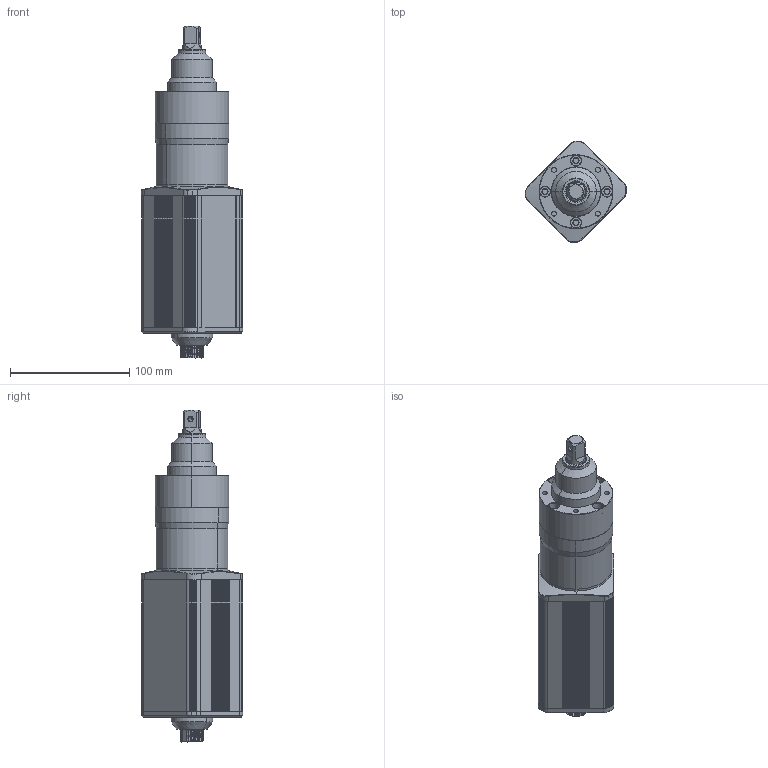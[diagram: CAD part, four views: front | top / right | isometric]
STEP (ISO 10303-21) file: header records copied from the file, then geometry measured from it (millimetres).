
FILE_DESCRIPTION (( 'STEP AP203' ), '1' );
FILE_NAME ('ZEDA-DE-MA12.7-0500 DE系列-低压高速智能电批.STEP', '2026-08-11T10:51:27', ( 'Windows User' ), ( 'P R C' ), 'SwSTEP 2.0', 'SolidWorks 2025', '' );
FILE_SCHEMA (( 'CONFIG_CONTROL_DESIGN' ));
Length unit declared in the file: millimetre
Products named in the file (1): ZEDA-DE-MA12.7-0500 DE系列-低压高速智能电批
Bounding box: 85.01 x 85.02 x 278.35 mm (x, y, z)
Surface area: 76893.9 mm2 (no closed solid volume)
Topology: 0 solids, 19 shells, 487 faces, 1461 edges, 989 vertices
Faces by surface type: cylinder 295, plane 84, cone 49, bspline 41, torus 18
Entity records: 32014 total; most frequent: CARTESIAN_POINT 19187, DIRECTION 2789, ORIENTED_EDGE 2476, EDGE_CURVE 1461, AXIS2_PLACEMENT_3D 1112, VERTEX_POINT 989, CIRCLE 665, VECTOR 565
